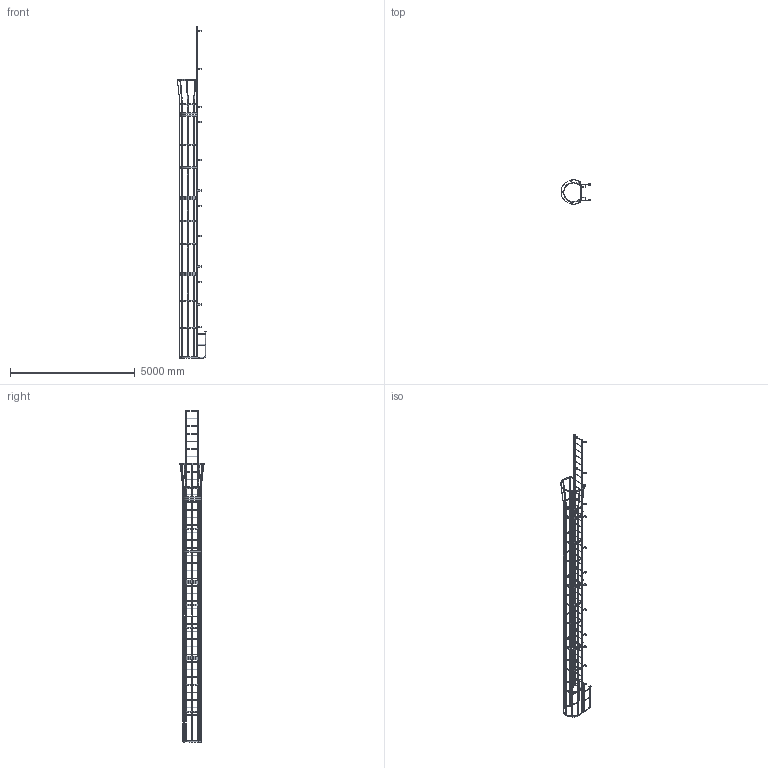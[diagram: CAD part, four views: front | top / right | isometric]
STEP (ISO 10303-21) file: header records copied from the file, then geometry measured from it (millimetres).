
FILE_DESCRIPTION(/* description */ (''),/* implementation_level */ '2;1');
FILE_NAME(/* name */ 'C:\Vault Working Folder\Company\Cotterman\3057\3570402 F41WC SIMPLIFIED .stp',/* time_stamp */ '2020-05-08T08:48:40-04:00',/* author */ ('karen'),/* organization */ (''),/* preprocessor_version */ 'ST-DEVELOPER v18',/* originating_system */ 'Autodesk Inventor 2020',/* authorisation */ '');
FILE_SCHEMA (('AUTOMOTIVE_DESIGN { 1 0 10303 214 3 1 1 }'));
Products named in the file (1): 3570402 F41WC SIMPLIFIED 
Bounding box: 1195.62 x 977.88 x 13306.42 mm (x, y, z)
Volume: 46653426 mm3; surface area: 17493339 mm2
Topology: 61 solids, 63 shells, 1561 faces, 4783 edges, 3142 vertices
Faces by surface type: plane 1014, cylinder 507, cone 32, torus 8
Full cylindrical faces by diameter (mm): 10.319 x4, 12.7 x4, 14.287 x30, 16.193 x2, 19.05 x43, 22.098 x10, 22.225 x82, 25.4 x8
Entity records: 56816 total; most frequent: CARTESIAN_POINT 10103, ORIENTED_EDGE 9682, DIRECTION 9315, EDGE_CURVE 4841, LINE 3323, VECTOR 3323, VERTEX_POINT 3172, AXIS2_PLACEMENT_3D 2996
